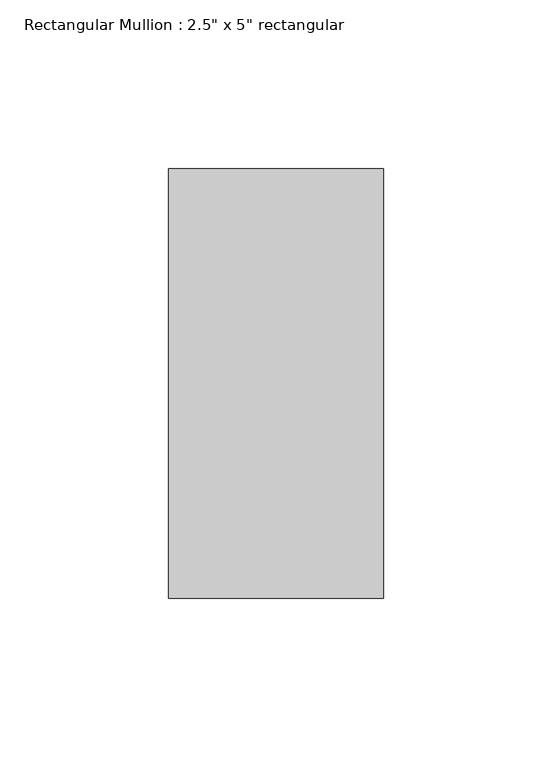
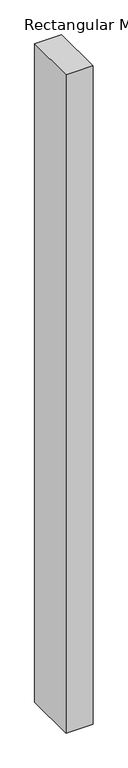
"""IFC4 building model written with IfcOpenShell, lengths in millimetres: member geometry."""

from ifc_helpers import new_model, si_unit, frame, origin, place, context, project, spatial, polyline, outline, extrude, source, transform, mapped, element, save


def member_47d4ef6f(model_context):
    return source(origin(), model_context, "Body", "SweptSolid", [
        extrude(outline(polyline([(0.0, 63.5), (0.0, -63.5), (-63.5, -63.5), (-63.5, 63.5), (0.0, 63.5)])), frame((0.0, 0.0, -1634.7022187), z_axis=(0.0, 0.0, 1.0), x_axis=(1.0, 0.0, 0.0)), (0.0, 0.0, 1.0), 1634.7022187),
    ])


if __name__ == "__main__":
    model = new_model("IFC4")
    model_context = context("Model", 3, world=origin())
    ifc_project = project(units=[si_unit("LENGTHUNIT", "METRE", prefix="MILLI")], contexts=[model_context])
    site = spatial("IfcSite", under=ifc_project)
    building = spatial("IfcBuilding", under=site)
    placement = place(None, origin())
    member_shape = member_47d4ef6f(model_context)
    element("IfcMember", 1, ObjectType="Rectangular Mullion : 2.5\" x 5\" rectangular", at=placement, inside=building, context=model_context, shape_type="MappedRepresentation", body=[
        mapped(member_shape, transform((0.0, 0.0, 0.0), x_axis=(1.0, 0.0, 0.0), y_axis=(0.0, 1.0, 0.0), z_axis=(0.0, 0.0, 1.0))),
    ])
    save(model, "model.ifc")
